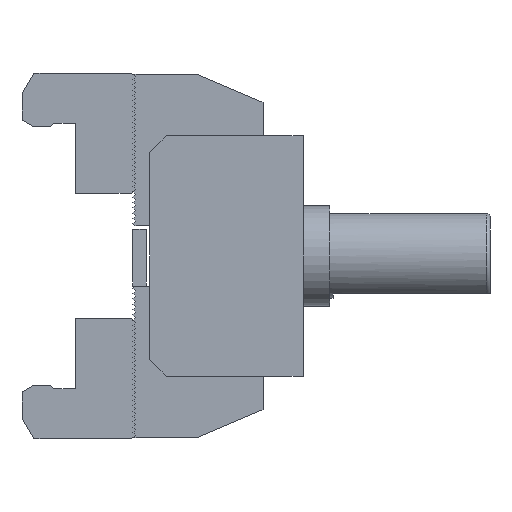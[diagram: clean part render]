
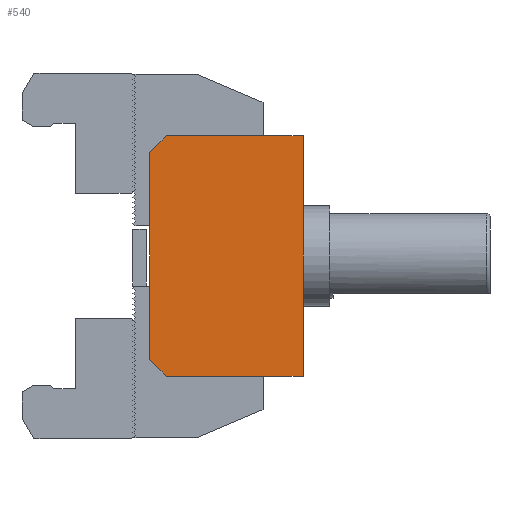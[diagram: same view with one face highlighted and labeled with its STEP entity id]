
A CAD part, front view. The second image highlights one B-rep face of the part: STEP entity #540.
In plain terms, the highlighted planar face has unit normal (0, -1, 0).
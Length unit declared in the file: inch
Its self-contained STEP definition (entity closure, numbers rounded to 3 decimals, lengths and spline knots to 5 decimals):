
#440 = VECTOR ( 'NONE', #8850, 39.37008 ) ;
#540 = ADVANCED_FACE ( 'NONE', ( #10210 ), #7076, .F. ) ;
#1128 = DIRECTION ( 'NONE',  ( 1., 0., 0. ) ) ;
#2122 = VERTEX_POINT ( 'NONE', #3002 ) ;
#2392 = LINE ( 'NONE', #6621, #17629 ) ;
#3002 = CARTESIAN_POINT ( 'NONE',  ( -4.15135, -0.08421, -0.34774 ) ) ;
#3117 = CARTESIAN_POINT ( 'NONE',  ( -4.15135, -0.08421, 2.09321 ) ) ;
#3552 = ORIENTED_EDGE ( 'NONE', *, *, #7642, .F. ) ;
#3743 = VECTOR ( 'NONE', #12462, 39.37008 ) ;
#3797 = EDGE_CURVE ( 'NONE', #9663, #5591, #12263, .T. ) ;
#4120 = ORIENTED_EDGE ( 'NONE', *, *, #6747, .F. ) ;
#4222 = DIRECTION ( 'NONE',  ( -1., 0., 0. ) ) ;
#4696 = CARTESIAN_POINT ( 'NONE',  ( -4.15135, -0.08421, 2.29006 ) ) ;
#4894 = CARTESIAN_POINT ( 'NONE',  ( -3.9545, -0.08421, -0.54459 ) ) ;
#5017 = ORIENTED_EDGE ( 'NONE', *, *, #11840, .F. ) ;
#5244 = VECTOR ( 'NONE', #7681, 39.37008 ) ;
#5591 = VERTEX_POINT ( 'NONE', #8283 ) ;
#6621 = CARTESIAN_POINT ( 'NONE',  ( -2.34032, -0.08421, 2.29006 ) ) ;
#6747 = EDGE_CURVE ( 'NONE', #7763, #2122, #11808, .T. ) ;
#6799 = EDGE_CURVE ( 'NONE', #13732, #7763, #11145, .T. ) ;
#7076 = PLANE ( 'NONE',  #7117 ) ;
#7117 = AXIS2_PLACEMENT_3D ( 'NONE', #7343, #11201, #12818 ) ;
#7343 = CARTESIAN_POINT ( 'NONE',  ( 0.41558, -0.08421, 2.29006 ) ) ;
#7642 = EDGE_CURVE ( 'NONE', #5591, #13732, #2392, .T. ) ;
#7681 = DIRECTION ( 'NONE',  ( -0.707, 0., 0.707 ) ) ;
#7763 = VERTEX_POINT ( 'NONE', #11103 ) ;
#7880 = DIRECTION ( 'NONE',  ( 0., 0., -1. ) ) ;
#8283 = CARTESIAN_POINT ( 'NONE',  ( -2.34032, -0.08421, 2.29006 ) ) ;
#8850 = DIRECTION ( 'NONE',  ( 0., 0., 1. ) ) ;
#8881 = VECTOR ( 'NONE', #1128, 39.37008 ) ;
#9663 = VERTEX_POINT ( 'NONE', #16480 ) ;
#9775 = EDGE_LOOP ( 'NONE', ( #11206, #5017, #16106, #4120, #15950, #3552 ) ) ;
#10210 = FACE_OUTER_BOUND ( 'NONE', #9775, .T. ) ;
#11103 = CARTESIAN_POINT ( 'NONE',  ( -3.9545, -0.08421, -0.54459 ) ) ;
#11145 = LINE ( 'NONE', #14119, #15847 ) ;
#11201 = DIRECTION ( 'NONE',  ( 0., 1., 0. ) ) ;
#11206 = ORIENTED_EDGE ( 'NONE', *, *, #3797, .F. ) ;
#11808 = LINE ( 'NONE', #4894, #5244 ) ;
#11840 = EDGE_CURVE ( 'NONE', #17657, #9663, #15420, .T. ) ;
#12263 = LINE ( 'NONE', #15141, #8881 ) ;
#12462 = DIRECTION ( 'NONE',  ( 0.707, 0., 0.707 ) ) ;
#12818 = DIRECTION ( 'NONE',  ( 0., 0., 1. ) ) ;
#13732 = VERTEX_POINT ( 'NONE', #14078 ) ;
#14078 = CARTESIAN_POINT ( 'NONE',  ( -2.34032, -0.08421, -0.54459 ) ) ;
#14119 = CARTESIAN_POINT ( 'NONE',  ( 0.41558, -0.08421, -0.54459 ) ) ;
#14956 = CARTESIAN_POINT ( 'NONE',  ( -4.15135, -0.08421, 2.09321 ) ) ;
#15141 = CARTESIAN_POINT ( 'NONE',  ( 0.41558, -0.08421, 2.29006 ) ) ;
#15420 = LINE ( 'NONE', #3117, #3743 ) ;
#15494 = EDGE_CURVE ( 'NONE', #2122, #17657, #17002, .T. ) ;
#15847 = VECTOR ( 'NONE', #4222, 39.37008 ) ;
#15950 = ORIENTED_EDGE ( 'NONE', *, *, #6799, .F. ) ;
#16106 = ORIENTED_EDGE ( 'NONE', *, *, #15494, .F. ) ;
#16480 = CARTESIAN_POINT ( 'NONE',  ( -3.9545, -0.08421, 2.29006 ) ) ;
#17002 = LINE ( 'NONE', #4696, #440 ) ;
#17629 = VECTOR ( 'NONE', #7880, 39.37008 ) ;
#17657 = VERTEX_POINT ( 'NONE', #14956 ) ;
